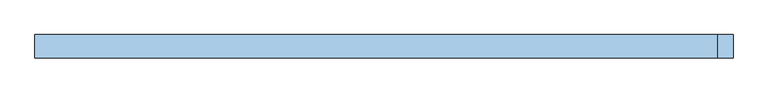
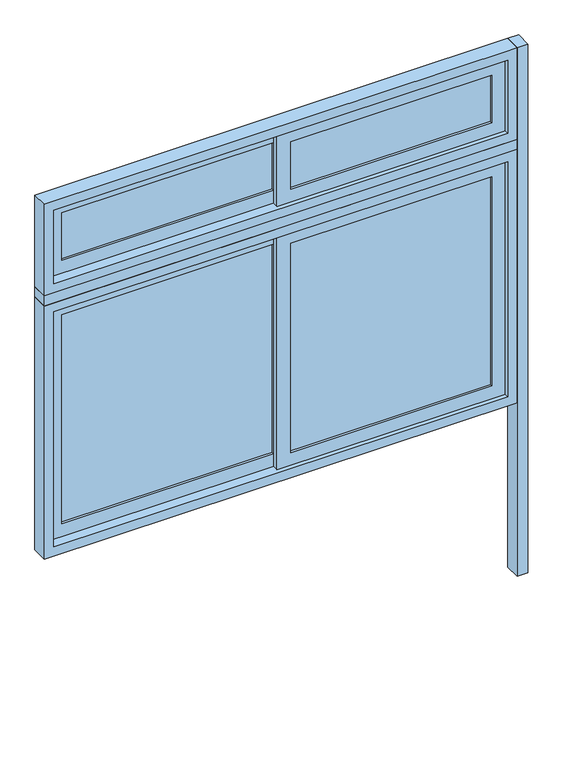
"""IFC4 building model written with IfcOpenShell, lengths in millimetres: window geometry, A4 Cerramiento aula Exterior_vidrios corredizos : A4 Cerramiento aula Exterior_vidrios corredizos."""

import ifcopenshell
import ifcopenshell.guid

model = None  # the IFC model being written
_history = None  # IfcOwnerHistory: only IFC2X3 demands one
_inside = {}  # id of a spatial element -> (the spatial element, [elements in it])
_under = {}  # id of a project, library or spatial element -> (it, [spatial elements below it])
_declared = {}  # id of a project -> (the project, [libraries it declares])
_typed = {}  # id of a type object -> (the type object, [elements of that type])
_made_of = {}  # id of a material, layer set ... -> (it, [elements and type objects made of it])


def new_model(schema):
    """Start an empty IFC model of exactly this schema.

    Asked for "IFC4X3", IfcOpenShell would pick the latest addendum, in which some entities
    have other attributes; the version numbers below select the first issue.
    IFC2X3 requires an IfcOwnerHistory on every rooted entity: one is made here for all.
    """
    global model, _history
    if schema == "IFC4X3":
        model = ifcopenshell.file(schema_version=(4, 3, 0, 0))
    else:
        model = ifcopenshell.file(schema=schema)
    _inside.clear()
    _under.clear()
    _declared.clear()
    _typed.clear()
    _made_of.clear()
    _history = None
    if model.schema == "IFC2X3":
        org = make("IfcOrganization", Name="unknown")
        user = make(
            "IfcPersonAndOrganization",
            ThePerson=make("IfcPerson", FamilyName="unknown"),
            TheOrganization=org,
        )
        app = make(
            "IfcApplication",
            ApplicationDeveloper=org,
            Version="unknown",
            ApplicationFullName="unknown",
            ApplicationIdentifier="unknown",
        )
        _history = make(
            "IfcOwnerHistory",
            OwningUser=user,
            OwningApplication=app,
            ChangeAction="ADDED",
            CreationDate=0,
        )
    return model


def make(cls, **values):
    """One entity of the class cls with the attributes given. An attribute that is None is left unset."""
    return model.create_entity(
        cls, **{name: value for name, value in values.items() if value is not None}
    )


def rooted(cls, **values):
    """An entity with a GlobalId (a new one), such as an element, a storey or a relation."""
    return make(cls, GlobalId=ifcopenshell.guid.new(), OwnerHistory=_history, **values)


def si_unit(unit_type, name, prefix=None):
    """IfcSIUnit, for example si_unit("LENGTHUNIT", "METRE", prefix="MILLI")."""
    return make("IfcSIUnit", UnitType=unit_type, Prefix=prefix, Name=name)


def assignment(units):
    """IfcUnitAssignment: the units of a project."""
    return None if units is None else make("IfcUnitAssignment", Units=units)


def point(xyz):
    """IfcCartesianPoint."""
    return None if xyz is None else make("IfcCartesianPoint", Coordinates=xyz)


def direction(xyz):
    """IfcDirection."""
    return None if xyz is None else make("IfcDirection", DirectionRatios=xyz)


def frame(location, z_axis=None, x_axis=None):
    """IfcAxis2Placement3D, a coordinate frame: its origin and axes. An axis left out is left unset."""
    return make(
        "IfcAxis2Placement3D",
        Location=point(location),
        Axis=direction(z_axis),
        RefDirection=direction(x_axis),
    )


def origin():
    """The frame at (0, 0, 0) with its axes left unset."""
    return frame((0.0, 0.0, 0.0))


def origin_with_axes():
    """The frame at (0, 0, 0) with the z axis (0, 0, 1) and the x axis (1, 0, 0) written out."""
    return frame((0.0, 0.0, 0.0), z_axis=(0.0, 0.0, 1.0), x_axis=(1.0, 0.0, 0.0))


def place(relative_to, where):
    """IfcLocalPlacement: puts the frame where relative to a parent placement (None: the world)."""
    return make(
        "IfcLocalPlacement", PlacementRelTo=relative_to, RelativePlacement=where
    )


def context(
    kind, dimensions, precision=None, world=None, true_north=None, identifier=None
):
    """IfcGeometricRepresentationContext, for example the 3D "Model" context."""
    return make(
        "IfcGeometricRepresentationContext",
        ContextIdentifier=identifier,
        ContextType=kind,
        CoordinateSpaceDimension=dimensions,
        Precision=precision,
        WorldCoordinateSystem=world,
        TrueNorth=true_north,
    )


def project(units=None, contexts=None):
    """IfcProject with its units and contexts."""
    return rooted(
        "IfcProject",
        Name="project",
        RepresentationContexts=contexts,
        UnitsInContext=assignment(units),
    )


def spatial(cls, under=None, at=None, **own):
    """A site, building, storey or space (cls), placed at a placement, below another one or the project."""
    s = rooted(cls, ObjectPlacement=at, **own)
    if under is not None:
        _under.setdefault(under.id(), (under, []))[1].append(s)
    return s


def polyline(points):
    """IfcPolyline through the points."""
    return make("IfcPolyline", Points=[point(p) for p in points])


def outline(outer, holes=None, kind="AREA"):
    """IfcArbitraryClosedProfileDef: a profile drawn as a closed curve; with holes, ...WithVoids."""
    if holes is None:
        return make("IfcArbitraryClosedProfileDef", ProfileType=kind, OuterCurve=outer)
    return make(
        "IfcArbitraryProfileDefWithVoids",
        ProfileType=kind,
        OuterCurve=outer,
        InnerCurves=holes,
    )


def extrude(swept, where, along, depth):
    """IfcExtrudedAreaSolid: the profile swept, set in the frame where, extruded along a direction by depth."""
    return make(
        "IfcExtrudedAreaSolid",
        SweptArea=swept,
        Position=where,
        ExtrudedDirection=direction(along),
        Depth=depth,
    )


def shape(context_of_items, identifier, shape_type, items):
    """IfcShapeRepresentation: the items that make up one representation, for example the "Body"."""
    return make(
        "IfcShapeRepresentation",
        ContextOfItems=context_of_items,
        RepresentationIdentifier=identifier,
        RepresentationType=shape_type,
        Items=items,
    )


def source(mapping_origin, context_of_items, identifier, shape_type, items):
    """IfcRepresentationMap: a shape defined once, which mapped items show again and again."""
    return make(
        "IfcRepresentationMap",
        MappingOrigin=mapping_origin,
        MappedRepresentation=shape(context_of_items, identifier, shape_type, items),
    )


def transform(
    local_origin,
    x_axis=None,
    y_axis=None,
    z_axis=None,
    scale=None,
    scale2=None,
    scale3=None,
    uniform=True,
):
    """IfcCartesianTransformationOperator3D, or its non-uniform kind. x_axis, y_axis, z_axis: its Axis1, 2, 3."""
    if uniform:
        return make(
            "IfcCartesianTransformationOperator3D",
            Axis1=direction(x_axis),
            Axis2=direction(y_axis),
            LocalOrigin=point(local_origin),
            Scale=scale,
            Axis3=direction(z_axis),
        )
    return make(
        "IfcCartesianTransformationOperator3DnonUniform",
        Axis1=direction(x_axis),
        Axis2=direction(y_axis),
        LocalOrigin=point(local_origin),
        Scale=scale,
        Axis3=direction(z_axis),
        Scale2=scale2,
        Scale3=scale3,
    )


def mapped(mapping_source, mapping_target):
    """IfcMappedItem: shows the shape of a source again, moved by a transform."""
    return make(
        "IfcMappedItem", MappingSource=mapping_source, MappingTarget=mapping_target
    )


def made_of(thing, what):
    """Note that an element or type object is made of a material, layer set ...; save() writes the relation."""
    if what is not None:
        _made_of.setdefault(what.id(), (what, []))[1].append(thing)
    return thing


def element(
    cls,
    number,
    at=None,
    inside=None,
    cuts=None,
    type_object=None,
    material=None,
    context=None,
    identifier="Body",
    shape_type=None,
    held_by="IfcProductDefinitionShape",
    body=None,
    shapes=None,
    **own,
):
    """One element of the class cls, such as IfcWall. Its Tag is "e" and its number.

    at: its placement. inside: the storey or other place that contains it. cuts: it is an
    opening in that element (IfcRelVoidsElement). A single representation is given by context,
    identifier, shape_type and body (its items); several are given by shapes. held_by: the class
    of the entity that holds the representations. save() writes the other relations.
    """
    e = rooted(cls, Tag="e%d" % number, ObjectPlacement=at, **own)
    if body is not None:
        shapes = [shape(context, identifier, shape_type, body)]
    if shapes is not None:
        e.Representation = make(held_by, Representations=shapes)
    if inside is not None:
        _inside.setdefault(inside.id(), (inside, []))[1].append(e)
    if cuts is not None:
        rooted(
            "IfcRelVoidsElement", RelatingBuildingElement=cuts, RelatedOpeningElement=e
        )
    if type_object is not None:
        _typed.setdefault(type_object.id(), (type_object, []))[1].append(e)
    return made_of(e, material)


def aggregate(whole, parts):
    """IfcRelAggregates: a whole, such as a stair, and the parts it consists of."""
    return rooted("IfcRelAggregates", RelatingObject=whole, RelatedObjects=parts)


def save(model, path):
    """Write the relations noted so far, then the file.

    IfcRelAggregates (storeys below a building ...), IfcRelContainedInSpatialStructure (elements
    in a storey), IfcRelDefinesByType, IfcRelAssociatesMaterial and IfcRelDeclares: one each for
    every whole, place, type object, material and project.
    """
    for whole, parts in _under.values():
        aggregate(whole, parts)
    for where, things in _inside.values():
        rooted(
            "IfcRelContainedInSpatialStructure",
            RelatedElements=things,
            RelatingStructure=where,
        )
    for kind, things in _typed.values():
        rooted("IfcRelDefinesByType", RelatedObjects=things, RelatingType=kind)
    for what, things in _made_of.values():
        rooted("IfcRelAssociatesMaterial", RelatedObjects=things, RelatingMaterial=what)
    for by, libraries in _declared.values():
        rooted("IfcRelDeclares", RelatingContext=by, RelatedDefinitions=libraries)
    model.write(path)


def window_18074f74(model_context):
    return source(origin(), model_context, "Body", "SweptSolid", [
        extrude(outline(polyline([(1125.0, 25.0), (1075.0, 25.0), (1075.0, 100.0), (1125.0, 100.0), (1125.0, 25.0)])), origin_with_axes(), (0.0, 0.0, 1.0), 2600.0),
        extrude(outline(polyline([(-31.5, 89.0), (-31.5, 83.0), (-1017.0, 83.0), (-1017.0, 89.0), (-31.5, 89.0)])), frame((0.0, 0.0, 2258.0), z_axis=(0.0, 0.0, 1.0), x_axis=(1.0, 0.0, 0.0)), (0.0, 0.0, 1.0), 234.0),
        extrude(outline(polyline([(-31.5, 89.0), (-31.5, 83.0), (-1017.0, 83.0), (-1017.0, 89.0), (-31.5, 89.0)])), frame((0.0, 0.0, 963.0), z_axis=(0.0, 0.0, 1.0), x_axis=(1.0, 0.0, 0.0)), (0.0, 0.0, 1.0), 1029.0),
        extrude(outline(polyline([(967.0, 61.0), (967.0, 55.0), (31.5, 55.0), (31.5, 61.0), (967.0, 61.0)])), frame((0.0, 0.0, 2258.0), z_axis=(0.0, 0.0, 1.0), x_axis=(1.0, 0.0, 0.0)), (0.0, 0.0, 1.0), 234.0),
        extrude(outline(polyline([(967.0, 61.0), (967.0, 55.0), (31.5, 55.0), (31.5, 61.0), (967.0, 61.0)])), frame((0.0, 0.0, 963.0), z_axis=(0.0, 0.0, 1.0), x_axis=(1.0, 0.0, 0.0)), (0.0, 0.0, 1.0), 1029.0),
        extrude(outline(polyline([(2555.0, -1080.0), (2195.0, -1080.0), (2195.0, 31.5), (2555.0, 31.5), (2555.0, -1080.0)]), holes=[polyline([(2258.0, -1017.0), (2492.0, -1017.0), (2492.0, -31.5), (2258.0, -31.5), (2258.0, -1017.0)])]), frame((0.0, 72.0, 0.0), z_axis=(0.0, 1.0, 0.0), x_axis=(0.0, 0.0, 1.0)), (0.0, 0.0, 1.0), 28.0),
        extrude(outline(polyline([(2055.0, -1080.0), (900.0, -1080.0), (900.0, 31.5), (2055.0, 31.5), (2055.0, -1080.0)]), holes=[polyline([(963.0, -1017.0), (1992.0, -1017.0), (1992.0, -31.5), (963.0, -31.5), (963.0, -1017.0)])]), frame((0.0, 72.0, 0.0), z_axis=(0.0, 1.0, 0.0), x_axis=(0.0, 0.0, 1.0)), (0.0, 0.0, 1.0), 28.0),
        extrude(outline(polyline([(2195.0, -31.5), (2195.0, 1030.0), (2555.0, 1030.0), (2555.0, -31.5), (2195.0, -31.5)]), holes=[polyline([(2492.0, 31.5), (2492.0, 967.0), (2258.0, 967.0), (2258.0, 31.5), (2492.0, 31.5)])]), frame((0.0, 44.0, 0.0), z_axis=(0.0, 1.0, 0.0), x_axis=(0.0, 0.0, 1.0)), (0.0, 0.0, 1.0), 28.0),
        extrude(outline(polyline([(900.0, -31.5), (900.0, 1030.0), (2055.0, 1030.0), (2055.0, -31.5), (900.0, -31.5)]), holes=[polyline([(1992.0, 31.5), (1992.0, 967.0), (963.0, 967.0), (963.0, 31.5), (1992.0, 31.5)])]), frame((0.0, 44.0, 0.0), z_axis=(0.0, 1.0, 0.0), x_axis=(0.0, 0.0, 1.0)), (0.0, 0.0, 1.0), 28.0),
        extrude(outline(polyline([(2600.0, -1125.0), (2150.0, -1125.0), (2150.0, 1075.0), (2600.0, 1075.0), (2600.0, -1125.0)]), holes=[polyline([(2555.0, -1080.0), (2555.0, 1030.0), (2195.0, 1030.0), (2195.0, -1080.0), (2555.0, -1080.0)])]), frame((0.0, 25.0, 0.0), z_axis=(0.0, 1.0, 0.0), x_axis=(0.0, 0.0, 1.0)), (0.0, 0.0, 1.0), 75.0),
        extrude(outline(polyline([(2100.0, -1125.0), (855.0, -1125.0), (855.0, 1075.0), (2100.0, 1075.0), (2100.0, -1125.0)]), holes=[polyline([(2055.0, -1080.0), (2055.0, 1030.0), (900.0, 1030.0), (900.0, -1080.0), (2055.0, -1080.0)])]), frame((0.0, 25.0, 0.0), z_axis=(0.0, 1.0, 0.0), x_axis=(0.0, 0.0, 1.0)), (0.0, 0.0, 1.0), 75.0),
        extrude(outline(polyline([(1075.0, 100.0), (1075.0, 25.0), (-1125.0, 25.0), (-1125.0, 100.0), (1075.0, 100.0)])), frame((0.0, 0.0, 2100.0), z_axis=(0.0, 0.0, 1.0), x_axis=(1.0, 0.0, 0.0)), (0.0, 0.0, 1.0), 50.0),
    ])


if __name__ == "__main__":
    model = new_model("IFC4")
    model_context = context("Model", 3, world=origin())
    ifc_project = project(units=[si_unit("LENGTHUNIT", "METRE", prefix="MILLI")], contexts=[model_context])
    site = spatial("IfcSite", under=ifc_project)
    building = spatial("IfcBuilding", under=site)
    placement = place(None, origin())
    window_shape = window_18074f74(model_context)
    element("IfcWindow", 1, ObjectType="A4 Cerramiento aula Exterior_vidrios corredizos : A4 Cerramiento aula Exterior_vidrios corredizos", at=placement, inside=building, context=model_context, shape_type="MappedRepresentation", body=[
        mapped(window_shape, transform((0.0, 0.0, 0.0), x_axis=(1.0, 0.0, 0.0), y_axis=(0.0, 1.0, 0.0), z_axis=(0.0, 0.0, 1.0))),
    ])
    save(model, "model.ifc")
